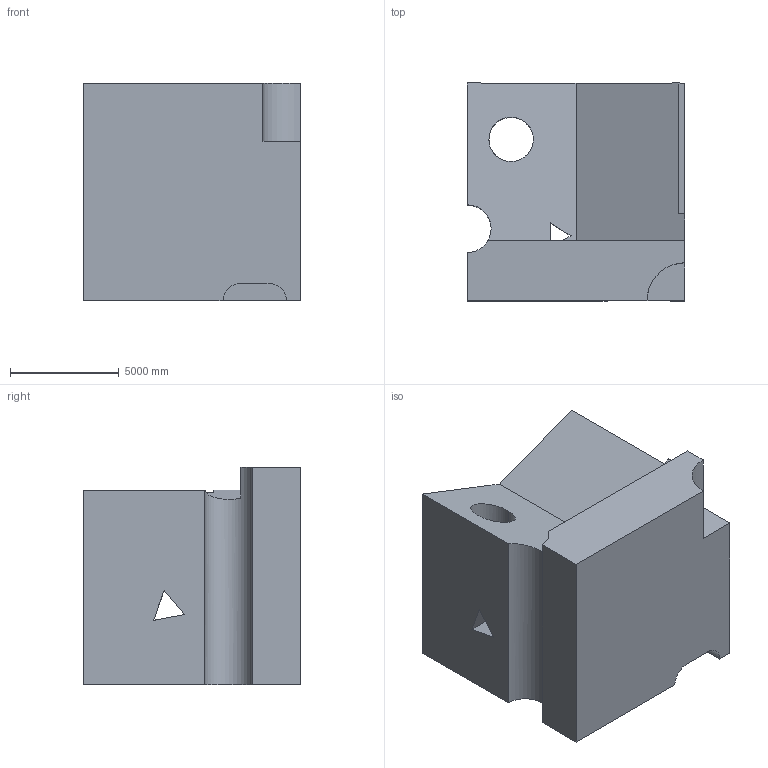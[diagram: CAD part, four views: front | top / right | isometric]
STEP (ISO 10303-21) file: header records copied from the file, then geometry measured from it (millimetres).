
FILE_DESCRIPTION (( 'STEP AP203' ), '1' );
FILE_NAME ('838.STEP', '2022-07-29T13:36:09', ( 'user' ), ( '' ), 'SwSTEP 2.0', 'SolidWorks 2021', '' );
FILE_SCHEMA (( 'CONFIG_CONTROL_DESIGN' ));
Length unit declared in the file: centimetre
Products named in the file (1): 838
Bounding box: 10000 x 10000 x 10000 mm (x, y, z)
Volume: 760616488792.5 mm3; surface area: 711794790.1 mm2
Topology: 1 solids, 1 shells, 32 faces, 96 edges, 64 vertices
Faces by surface type: plane 24, cylinder 8
Entity records: 1167 total; most frequent: CARTESIAN_POINT 208, ORIENTED_EDGE 192, DIRECTION 171, EDGE_CURVE 96, VECTOR 77, LINE 77, VERTEX_POINT 64, AXIS2_PLACEMENT_3D 47
